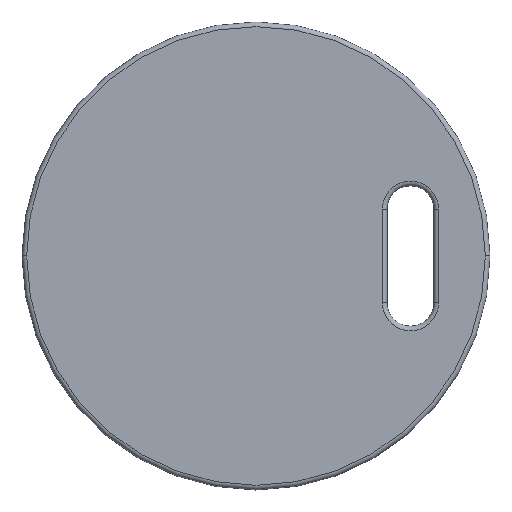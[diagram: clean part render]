
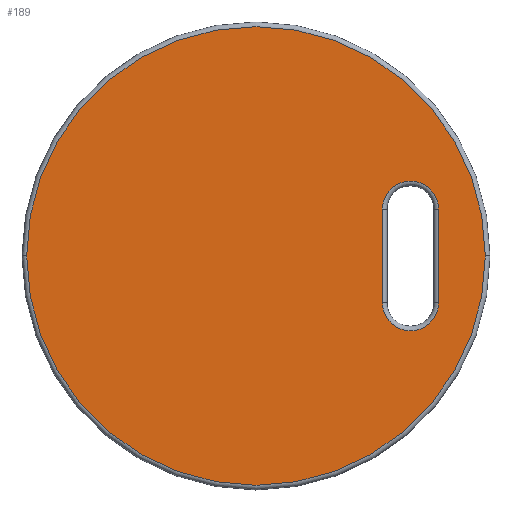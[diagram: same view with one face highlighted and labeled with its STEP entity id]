
A CAD part, top view. The second image highlights one B-rep face of the part: STEP entity #189.
In plain terms, the highlighted planar face has unit normal (0, 0, 1).
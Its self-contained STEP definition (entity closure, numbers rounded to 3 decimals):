
#14 = VERTEX_POINT ( 'NONE', #176 ) ;
#27 = EDGE_CURVE ( 'NONE', #571, #374, #578, .T. ) ;
#47 = DIRECTION ( 'NONE',  ( 0., 1., 0. ) ) ;
#53 = DIRECTION ( 'NONE',  ( 0., 0., -1. ) ) ;
#57 = FACE_BOUND ( 'NONE', #541, .T. ) ;
#60 = VECTOR ( 'NONE', #47, 1000. ) ;
#70 = DIRECTION ( 'NONE',  ( 1., 0., 0. ) ) ;
#71 = EDGE_CURVE ( 'NONE', #14, #649, #598, .T. ) ;
#86 = CARTESIAN_POINT ( 'NONE',  ( 214., 189.416, 18. ) ) ;
#89 = CARTESIAN_POINT ( 'NONE',  ( 361., 189.416, 18. ) ) ;
#97 = EDGE_CURVE ( 'NONE', #484, #458, #214, .T. ) ;
#111 = DIRECTION ( 'NONE',  ( 0., 0., -1. ) ) ;
#123 = LINE ( 'NONE', #230, #693 ) ;
#155 = AXIS2_PLACEMENT_3D ( 'NONE', #312, #691, #356 ) ;
#164 = CARTESIAN_POINT ( 'NONE',  ( 313., 219.416, 18. ) ) ;
#176 = CARTESIAN_POINT ( 'NONE',  ( 295., 219.416, 18. ) ) ;
#189 = ADVANCED_FACE ( 'NONE', ( #57, #278 ), #631, .T. ) ;
#209 = EDGE_LOOP ( 'NONE', ( #367, #388 ) ) ;
#214 = CIRCLE ( 'NONE', #249, 147. ) ;
#230 = CARTESIAN_POINT ( 'NONE',  ( 331., 189.416, 18. ) ) ;
#246 = CARTESIAN_POINT ( 'NONE',  ( 214., 189.416, 18. ) ) ;
#249 = AXIS2_PLACEMENT_3D ( 'NONE', #246, #462, #70 ) ;
#254 = DIRECTION ( 'NONE',  ( 0., -1., 0. ) ) ;
#278 = FACE_OUTER_BOUND ( 'NONE', #209, .T. ) ;
#281 = CARTESIAN_POINT ( 'NONE',  ( 67., 189.416, 18. ) ) ;
#312 = CARTESIAN_POINT ( 'NONE',  ( 214., 189.416, 18. ) ) ;
#314 = DIRECTION ( 'NONE',  ( 1., 0., 0. ) ) ;
#341 = EDGE_CURVE ( 'NONE', #458, #484, #560, .T. ) ;
#353 = ORIENTED_EDGE ( 'NONE', *, *, #71, .T. ) ;
#356 = DIRECTION ( 'NONE',  ( 1., 0., 0. ) ) ;
#367 = ORIENTED_EDGE ( 'NONE', *, *, #97, .T. ) ;
#374 = VERTEX_POINT ( 'NONE', #718 ) ;
#388 = ORIENTED_EDGE ( 'NONE', *, *, #341, .T. ) ;
#458 = VERTEX_POINT ( 'NONE', #281 ) ;
#462 = DIRECTION ( 'NONE',  ( 0., 0., 1. ) ) ;
#484 = VERTEX_POINT ( 'NONE', #89 ) ;
#498 = DIRECTION ( 'NONE',  ( 1., 0., 0. ) ) ;
#507 = CARTESIAN_POINT ( 'NONE',  ( 331., 219.416, 18. ) ) ;
#511 = LINE ( 'NONE', #601, #60 ) ;
#514 = AXIS2_PLACEMENT_3D ( 'NONE', #672, #111, #678 ) ;
#541 = EDGE_LOOP ( 'NONE', ( #620, #565, #607, #353 ) ) ;
#545 = AXIS2_PLACEMENT_3D ( 'NONE', #86, #636, #314 ) ;
#560 = CIRCLE ( 'NONE', #545, 147. ) ;
#565 = ORIENTED_EDGE ( 'NONE', *, *, #27, .T. ) ;
#571 = VERTEX_POINT ( 'NONE', #658 ) ;
#572 = EDGE_CURVE ( 'NONE', #374, #14, #511, .T. ) ;
#578 = CIRCLE ( 'NONE', #514, 18. ) ;
#598 = CIRCLE ( 'NONE', #628, 18. ) ;
#601 = CARTESIAN_POINT ( 'NONE',  ( 295., 189.416, 18. ) ) ;
#607 = ORIENTED_EDGE ( 'NONE', *, *, #572, .T. ) ;
#620 = ORIENTED_EDGE ( 'NONE', *, *, #723, .T. ) ;
#628 = AXIS2_PLACEMENT_3D ( 'NONE', #164, #53, #498 ) ;
#631 = PLANE ( 'NONE',  #155 ) ;
#636 = DIRECTION ( 'NONE',  ( 0., 0., 1. ) ) ;
#649 = VERTEX_POINT ( 'NONE', #507 ) ;
#658 = CARTESIAN_POINT ( 'NONE',  ( 331., 159.416, 18. ) ) ;
#672 = CARTESIAN_POINT ( 'NONE',  ( 313., 159.416, 18. ) ) ;
#678 = DIRECTION ( 'NONE',  ( 1., 0., 0. ) ) ;
#691 = DIRECTION ( 'NONE',  ( 0., 0., 1. ) ) ;
#693 = VECTOR ( 'NONE', #254, 1000. ) ;
#718 = CARTESIAN_POINT ( 'NONE',  ( 295., 159.416, 18. ) ) ;
#723 = EDGE_CURVE ( 'NONE', #649, #571, #123, .T. ) ;
